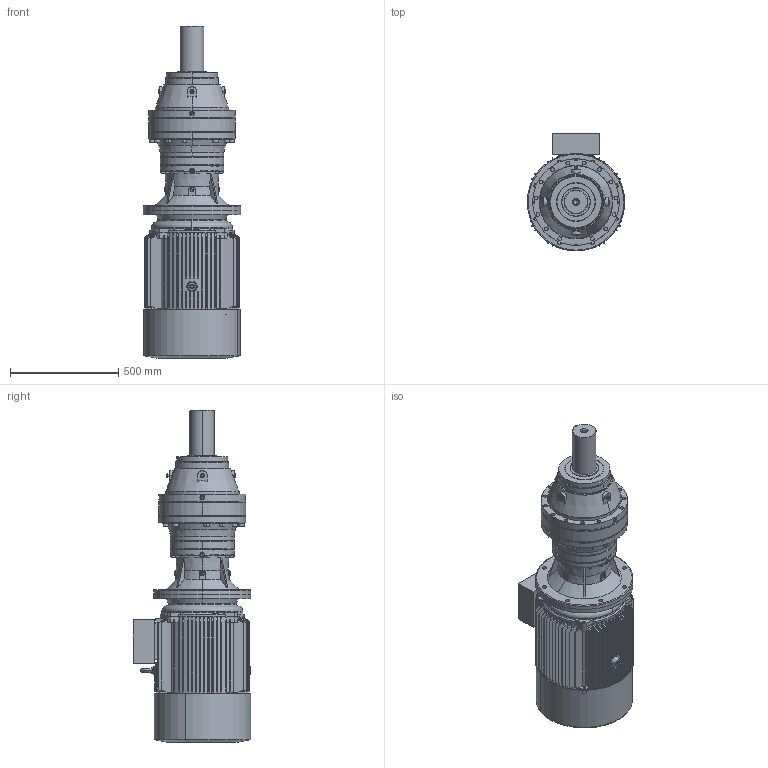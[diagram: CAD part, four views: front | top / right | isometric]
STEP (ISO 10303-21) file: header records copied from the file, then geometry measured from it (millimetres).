
FILE_DESCRIPTION (( 'STEP AP203' ), '1' );
FILE_NAME ('PVL-2702L-HS225S-4.STEP', '2019-05-27T09:41:23', ( '' ), ( '' ), 'SwSTEP 2.0', 'SolidWorks 2012', '' );
FILE_SCHEMA (( 'CONFIG_CONTROL_DESIGN' ));
Length unit declared in the file: millimetre
Products named in the file (15): M3-225S-4p-FF-B5; shaft_225-4; M3-HS225S-4p-FF-B5; 225-2-ª+-_-++ñ; Y2-200-4.6.8+ª-¯ª­-È®+_-++ñ; Eyebolts GB_GB_FASTENER_SCREWS_FRS M16-N; Y2-225+¦i-_-++ñ; EK2702L_Varsayìlan; Y2-225SB5+À+¿_-++ñ; FL12A_Varsayìlan; PNL_2702L_0_0_A22_B5_ML43A_FL12A_0_0_0_0_0_0_0_0_0_0_0_M1; ML43A_Varsayìlan; P27_Varsayìlan; 19225B5_Varsayìlan; PVL-2702L-HS225S-4
Assembly tree (14 placements, depth 4):
  PVL-2702L-HS225S-4
    PNL_2702L_0_0_A22_B5_ML43A_FL12A_0_0_0_0_0_0_0_0_0_0_0_M1
      P27_Varsayìlan
      19225B5_Varsayìlan
      ML43A_Varsayìlan
      EK2702L_Varsayìlan
      FL12A_Varsayìlan
    M3-HS225S-4p-FF-B5
      M3-225S-4p-FF-B5
        Y2-225SB5+À+¿_-++ñ
        Eyebolts GB_GB_FASTENER_SCREWS_FRS M16-N
        Y2-200-4.6.8+ª-¯ª­-È®+_-++ñ
        225-2-ª+-_-++ñ
        Y2-225+¦i-_-++ñ
        shaft_225-4
Bounding box: 450 x 545 x 1533.5 mm (x, y, z)
Volume: 67044836 mm3; surface area: 5927873.4 mm2
Topology: 17 solids, 17 shells, 2376 faces, 6287 edges, 4042 vertices
Faces by surface type: plane 1036, cylinder 815, cone 338, bspline 162, torus 25
Entity records: 85896 total; most frequent: CARTESIAN_POINT 25853, ORIENTED_EDGE 12462, DIRECTION 12121, EDGE_CURVE 6231, AXIS2_PLACEMENT_3D 4685, VERTEX_POINT 4042, LINE 2751, VECTOR 2751
